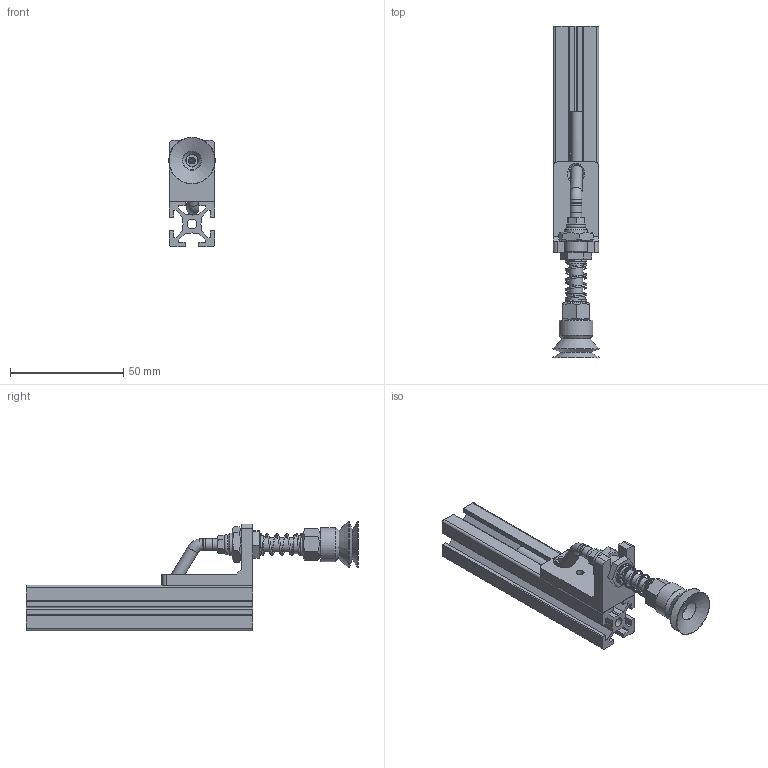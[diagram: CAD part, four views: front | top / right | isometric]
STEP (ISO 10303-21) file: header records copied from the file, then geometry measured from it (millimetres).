
FILE_DESCRIPTION(/* description */ ('','CAx-IF Rec.Pracs.---Representation and Presentation of Product Manufacturing Information (PMI)---4.0---2014-10-13'),/* implementation_level */ '2;1');
FILE_NAME(/* name */ 'ventosa_20mm.stp',/* time_stamp */ '2026-03-05T20:07:51+01:00',/* author */ ('R5800u'),/* organization */ (''),/* preprocessor_version */ 'ST-DEVELOPER v20',/* originating_system */ 'Autodesk Inventor 2025',/* authorisation */ '');
FILE_SCHEMA (('AP242_MANAGED_MODEL_BASED_3D_ENGINEERING_MIM_LF { 1 0 10303 442 1 1 4 }'));
Length unit declared in the file: millimetre
Products named in the file (11): R.03.Suction Grab; R.03.01.Cup; R.03.02.Tube; R.03.03.Spring; R.03.04.Fitting; DIN 3771 - 5 x 1,8 - N - NBR 70; R.03.05.Interface; R.03.06.Nut; blocco_ventosa_profilato; tslot-20x20-100mm; tubo_silicone
Assembly tree (10 placements, depth 2):
  R.03.Suction Grab
    R.03.01.Cup
    R.03.02.Tube
    R.03.03.Spring
    R.03.04.Fitting
    DIN 3771 - 5 x 1,8 - N - NBR 70
    R.03.05.Interface
    R.03.06.Nut
    blocco_ventosa_profilato
    tslot-20x20-100mm
    tubo_silicone
Bounding box: 20.52 x 146.55 x 48.26 mm (x, y, z)
Volume: 29336.5 mm3; surface area: 28903.4 mm2
Topology: 10 solids, 12 shells, 235 faces, 589 edges, 387 vertices
Faces by surface type: plane 124, cylinder 53, cone 25, torus 17, bspline 16
Full cylindrical faces by diameter (mm): 2 x1, 2.5 x1, 3 x1, 3.4 x2, 4 x3, 4.2 x1, 5 x5, 5.2 x3, 5.25 x1, 6 x2, 6.5 x1, 7 x2, 8 x2, 8.9 x4, 10 x2, 15 x1
Entity records: 12381 total; most frequent: CARTESIAN_POINT 4455, DIRECTION 1555, ORIENTED_EDGE 1158, AXIS2_PLACEMENT_3D 616, EDGE_CURVE 589, STYLED_ITEM 448, VERTEX_POINT 387, LINE 323
